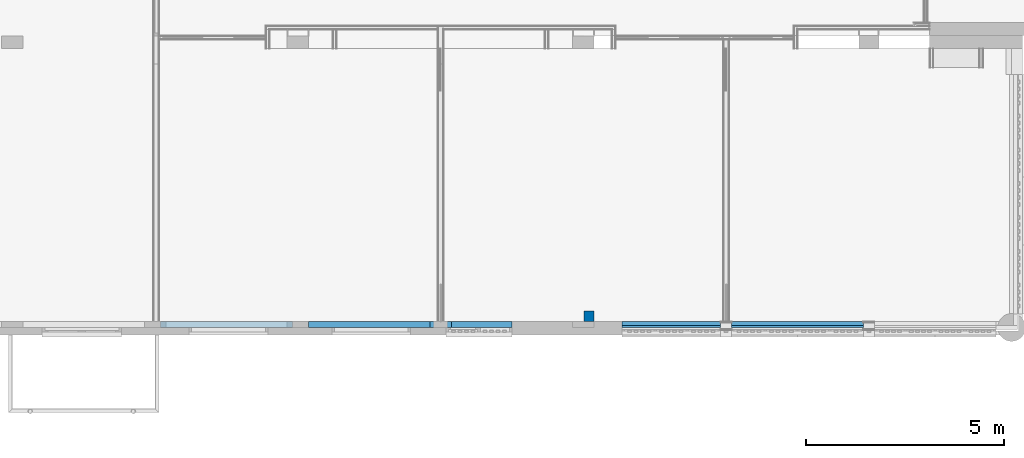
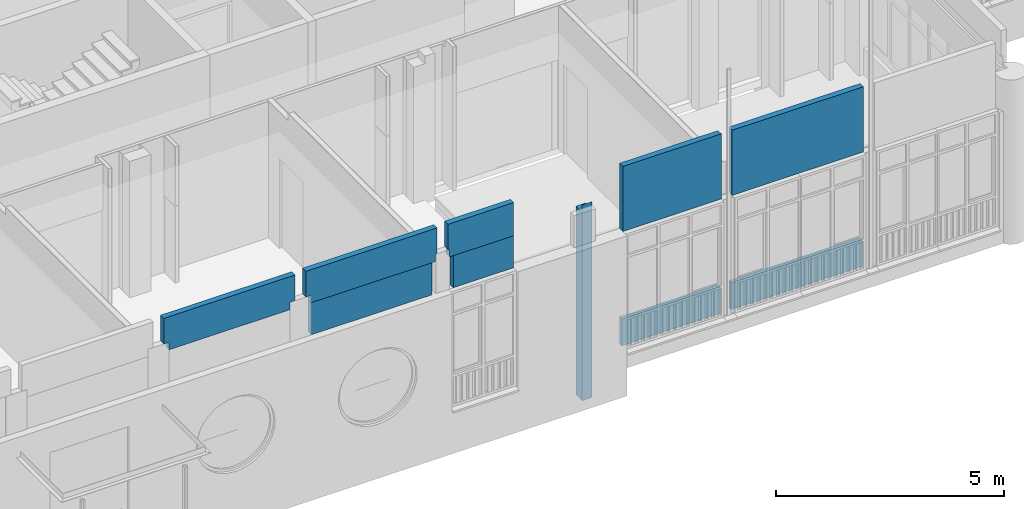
# One storey, part 82 of 135: 10 walls.
"""IFC2X3 building model written with IfcOpenShell, lengths in millimetres."""

from ifc_helpers import new_model, entity, si_unit, converted_unit, derived_unit, money_unit, direction, frame, origin_with_axes, place, context, subcontext, project, spatial, faceted_brep, material, type_object, element, save


model = new_model("IFC2X3")

# Units and contexts
model_context = context("Model", 3, precision=0.01, world=origin_with_axes(), true_north=direction((0.0, 1.0)))
body_context = subcontext(model_context, "Body", "Model", "MODEL_VIEW")
ifc_project = project(units=[si_unit("LENGTHUNIT", "METRE", prefix="MILLI"), si_unit("AREAUNIT", "SQUARE_METRE"), si_unit("VOLUMEUNIT", "CUBIC_METRE"), converted_unit("PLANEANGLEUNIT", "DEGREE", entity("IfcPlaneAngleMeasure", 0.0174532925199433), si_unit("PLANEANGLEUNIT", "RADIAN"), dimensions=[0, 0, 0, 0, 0, 0, 0]), money_unit("EUR"), converted_unit("TIMEUNIT", "Year", entity("IfcTimeMeasure", 31557600.0), si_unit("TIMEUNIT", "SECOND"), dimensions=[0, 0, 1, 0, 0, 0, 0]), si_unit("MASSUNIT", "GRAM", prefix="KILO"), si_unit("THERMODYNAMICTEMPERATUREUNIT", "DEGREE_CELSIUS"), si_unit("LUMINOUSINTENSITYUNIT", "LUMEN"), si_unit("ENERGYUNIT", "JOULE", prefix="MEGA"), derived_unit("THERMALCONDUCTANCEUNIT", [(si_unit("POWERUNIT", "WATT"), 1), (si_unit("LENGTHUNIT", "METRE"), -1), (si_unit("THERMODYNAMICTEMPERATUREUNIT", "KELVIN"), -1)]), derived_unit("SPECIFICHEATCAPACITYUNIT", [(si_unit("ENERGYUNIT", "JOULE"), 1), (si_unit("MASSUNIT", "GRAM", prefix="KILO"), -1), (si_unit("THERMODYNAMICTEMPERATUREUNIT", "KELVIN"), -1)]), derived_unit("MASSDENSITYUNIT", [(si_unit("MASSUNIT", "GRAM", prefix="KILO"), 1), (si_unit("VOLUMEUNIT", "CUBIC_METRE"), -1)])], contexts=[model_context])

# Site, building, storey
site_placement = place(None, origin_with_axes())
site = spatial("IfcSite", under=ifc_project, at=site_placement, Name="Site", CompositionType="ELEMENT")
building_placement = place(site_placement, origin_with_axes())
building = spatial("IfcBuilding", under=site, at=building_placement, Name="Naam gebouw", CompositionType="ELEMENT")
storey_placement = place(building_placement, origin_with_axes())
storey = spatial("IfcBuildingStorey", under=building, at=storey_placement, Name="Begane grond N", CompositionType="ELEMENT", Elevation=0.0)

# Walls
ifc_material_1 = material(Name="ALG - CONSTRUCTIEF")
wall_type_1 = type_object("IfcWallType", Name="ALG - CONSTRUCTIEF 250", PredefinedType="NOTDEFINED")
wall_1_placement = place(storey_placement, frame((21870.0, 3445.668707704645, -1200.0), z_axis=(0.0, 0.0, 1.0), x_axis=(0.0, 1.0, 0.0)))
element("IfcWall", 1, at=wall_1_placement, inside=storey, type_object=wall_type_1, material=ifc_material_1, Name="_Wand-x", context=body_context, shape_type="Brep", body=[
    faceted_brep([(275.0000000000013, 0.0, 0.0), (275.0000000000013, 250.0, 0.0), (275.0000000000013, 250.0, 5050.000000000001), (275.0000000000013, 0.0, 5050.000000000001), (0.0, 250.0, 0.0), (0.0, 0.0, 0.0), (0.0, 250.0, 5250.000000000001), (0.2437173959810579, 250.0000000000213, 5250.000000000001), (0.2437173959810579, 250.0000000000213, 5050.000000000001), (0.2437173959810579, 0.0, 5050.000000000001), (0.2437173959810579, 0.0, 5250.000000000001), (0.0, 0.0, 5250.000000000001)], [[[0, 1, 2, 3]], [[4, 1, 0, 5]], [[6, 7, 8, 2, 1, 4]], [[2, 8, 9, 3]], [[0, 3, 9, 10, 11, 5]], [[4, 5, 11, 6]], [[6, 11, 10, 7]], [[9, 8, 7, 10]]]),
])
ifc_material_2 = material(Name="Steen - Betonblok")
wall_type_2 = type_object("IfcWallType", Name="Steen - Betonblok 100", PredefinedType="NOTDEFINED")
wall_2_placement = place(storey_placement, frame((22568.72689531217, 3345.668707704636, 0.0), z_axis=(0.0, 0.0, 1.0), x_axis=(1.0, 0.0, 0.0)))
element("IfcWall", 2, at=wall_2_placement, inside=storey, type_object=wall_type_2, material=ifc_material_2, Name="_Wand-x", context=body_context, shape_type="Brep", body=[
    faceted_brep([(0.0, 0.0, 720.0000000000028), (2493.722755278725, 0.0, 720.0000000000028), (2493.722755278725, 99.99999999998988, 720.0000000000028), (0.0, 100.0000000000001, 720.0000000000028), (0.0, 0.0, 0.0), (2493.722755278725, 0.0, 0.0), (2493.722755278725, 99.99999999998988, 0.0), (0.0, 100.0000000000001, 0.0)], [[[0, 1, 2, 3]], [[4, 5, 1, 0]], [[2, 1, 5, 6]], [[3, 2, 6, 7]], [[4, 0, 3, 7]], [[7, 6, 5, 4]]]),
])
wall_3_placement = place(storey_placement, frame((25337.4496505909, 3445.668707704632, 0.0), z_axis=(0.0, 0.0, 1.0), x_axis=(1.0, 0.0, 0.0)))
element("IfcWall", 3, at=wall_3_placement, inside=storey, type_object=wall_type_2, material=ifc_material_2, Name="_Wand-x", context=body_context, shape_type="Brep", body=[
    faceted_brep([(0.0, -100.0000000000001, 720.0000000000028), (3325.088158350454, -100.0000000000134, 720.0000000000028), (3325.088158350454, 0.0, 720.0000000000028), (0.0, 0.0, 720.0000000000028), (0.0, -100.0000000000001, 0.0), (3325.088158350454, -100.0000000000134, 0.0), (3325.088158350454, 0.0, 0.0), (0.0, 0.0, 0.0)], [[[0, 1, 2, 3]], [[4, 5, 1, 0]], [[2, 1, 5, 6]], [[3, 2, 6, 7]], [[4, 0, 3, 7]], [[7, 6, 5, 4]]]),
])
wall_type_3 = type_object("IfcWallType", Name="ALG - CONSTRUCTIEF 146", PredefinedType="NOTDEFINED")
wall_4_placement = place(storey_placement, frame((10937.44965059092, 3445.668707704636, 3950.000000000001), z_axis=(0.0, 0.0, 1.0), x_axis=(1.0, 0.0, 0.0)))
element("IfcWall", 4, at=wall_4_placement, inside=storey, type_object=wall_type_3, material=ifc_material_1, Name="_Wand-x", context=body_context, shape_type="Brep", body=[
    faceted_brep([(3324.993059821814, -145.9999999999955, 886.4999999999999), (3324.993059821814, -145.9999999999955, 199.9999999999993), (3324.993059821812, 0.0, 199.9999999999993), (3324.993059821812, 0.0, 886.4999999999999), (3192.550349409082, -145.9999999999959, 0.0), (3192.550349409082, -145.9999999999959, 199.9999999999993), (0.0, -145.9999999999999, 886.4999999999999), (0.0, -145.9999999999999, 199.9999999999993), (132.5503494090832, -145.9999999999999, 199.9999999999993), (132.5503494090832, -145.9999999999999, 0.0), (3192.55034940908, 0.0, 199.9999999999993), (3192.55034940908, 0.0, 0.0), (132.5503494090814, 0.0, 0.0), (132.5503494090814, 0.0, 199.9999999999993), (0.0, 0.0, 199.9999999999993), (0.0, 0.0, 886.4999999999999)], [[[0, 1, 2, 3]], [[4, 5, 1, 0, 6, 7, 8, 9]], [[5, 10, 2, 1]], [[2, 10, 11, 12, 13, 14, 15, 3]], [[15, 6, 0, 3]], [[4, 11, 10, 5]], [[15, 14, 7, 6]], [[7, 14, 13, 8]], [[8, 13, 12, 9]], [[12, 11, 4, 9]]]),
])
wall_5_placement = place(storey_placement, frame((14537.45659076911, 3445.668707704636, 3950.000000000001), z_axis=(0.0, 0.0, 1.0), x_axis=(1.0, 0.0, 0.0)))
element("IfcWall", 5, at=wall_5_placement, inside=storey, type_object=wall_type_3, material=ifc_material_1, Name="_Wand-x", context=body_context, shape_type="Brep", body=[
    faceted_brep([(132.5434092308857, 0.0, 0.0), (132.5434092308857, 0.0, 199.9999999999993), (0.0, 0.0, 199.9999999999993), (0.0, 0.0, 886.4999999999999), (3324.993059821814, 0.0, 886.4999999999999), (3324.993059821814, 0.0, 199.9999999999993), (3287.543409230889, 0.0, 199.9999999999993), (3287.543409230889, 0.0, 0.0), (132.5434092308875, -145.9999999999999, 199.9999999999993), (132.5434092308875, -145.9999999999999, 0.0), (0.0, -145.9999999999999, 199.9999999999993), (0.0, -145.9999999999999, 886.4999999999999), (3324.993059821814, -145.9999999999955, 886.4999999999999), (3324.993059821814, -145.9999999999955, 199.9999999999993), (3287.543409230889, -145.9999999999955, 199.9999999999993), (3287.543409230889, -145.9999999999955, 0.0)], [[[0, 1, 2, 3, 4, 5, 6, 7]], [[8, 1, 0, 9]], [[10, 2, 1, 8]], [[3, 2, 10, 11]], [[3, 11, 12, 4]], [[12, 13, 5, 4]], [[14, 6, 5, 13]], [[15, 7, 6, 14]], [[15, 9, 0, 7]], [[10, 8, 9, 15, 14, 13, 12, 11]]]),
])
wall_6_placement = place(storey_placement, frame((14670.0, 3445.668707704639, 3090.0), z_axis=(0.0, 0.0, 1.0), x_axis=(0.999999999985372, 5.408888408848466e-06, 0.0)))
element("IfcWall", 6, at=wall_6_placement, inside=storey, type_object=wall_type_3, material=ifc_material_1, Name="_Wand-x", context=body_context, shape_type="Brep", body=[
    faceted_brep([(-0.0007896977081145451, -145.9999999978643, 0.0), (0.0, 0.0, 0.0), (3059.999999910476, -0.0165511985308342, 0.0), (3059.999210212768, -146.0165511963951, 0.0), (-0.0007896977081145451, -145.9999999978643, 860.0000000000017), (0.0, 0.0, 860.0000000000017), (3059.999999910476, -0.01655119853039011, 860.0000000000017), (3059.999210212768, -146.0165511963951, 860.0000000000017)], [[[0, 1, 2, 3]], [[4, 5, 1, 0]], [[1, 5, 6, 2]], [[7, 3, 2, 6]], [[4, 0, 3, 7]], [[5, 4, 7, 6]]]),
])
wall_7_placement = place(storey_placement, frame((22568.71995513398, 3445.668707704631, 3090.0), z_axis=(0.0, 0.0, 1.0), x_axis=(1.0, 0.0, 0.0)))
element("IfcWall", 7, at=wall_7_placement, inside=storey, type_object=wall_type_3, material=ifc_material_1, Name="_Wand-x", context=body_context, shape_type="Brep", body=[
    faceted_brep([(0.0, 0.0, 0.0), (2493.516377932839, 0.0, 0.0), (2493.516377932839, -146.0000000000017, 0.0), (0.0, -145.9999999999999, 0.0), (0.0, 0.0, 1746.500000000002), (2493.516377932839, 0.0, 1746.500000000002), (2493.516377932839, -146.0000000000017, 1746.500000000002), (0.0, -145.9999999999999, 1746.500000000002)], [[[0, 1, 2, 3]], [[4, 5, 1, 0]], [[2, 1, 5, 6]], [[3, 2, 6, 7]], [[4, 0, 3, 7]], [[7, 6, 5, 4]]]),
])
wall_8_placement = place(storey_placement, frame((18270.0, 3445.668707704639, 3090.0), z_axis=(0.0, 0.0, 1.0), x_axis=(0.999999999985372, 5.40888840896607e-06, 0.0)))
element("IfcWall", 8, at=wall_8_placement, inside=storey, type_object=wall_type_3, material=ifc_material_1, Name="_Wand-x", context=body_context, shape_type="Brep", body=[
    faceted_brep([(0.0, 0.0, 0.0), (1529.949650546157, -0.008275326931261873, 0.0), (1529.948860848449, -146.0082753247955, 0.0), (-0.0007896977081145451, -145.9999999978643, 0.0), (0.0, 0.0, 860.0000000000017), (1529.949650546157, -0.008275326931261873, 860.0000000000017), (1529.948860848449, -146.0082753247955, 860.0000000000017), (-0.0007896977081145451, -145.9999999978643, 860.0000000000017)], [[[0, 1, 2, 3]], [[4, 5, 1, 0]], [[2, 1, 5, 6]], [[3, 2, 6, 7]], [[4, 0, 3, 7]], [[7, 6, 5, 4]]]),
])
wall_9_placement = place(storey_placement, frame((25337.22939288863, 3445.668707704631, 3090.0), z_axis=(0.0, 0.0, 1.0), x_axis=(1.0, 0.0, 0.0)))
element("IfcWall", 9, at=wall_9_placement, inside=storey, type_object=wall_type_3, material=ifc_material_1, Name="_Wand-x", context=body_context, shape_type="Brep", body=[
    faceted_brep([(0.0, 0.0, 0.0), (3325.308416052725, 0.0, 0.0), (3325.308416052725, -146.0000000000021, 0.0), (0.0, -145.9999999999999, 0.0), (0.0, 0.0, 1746.500000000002), (3325.308416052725, 0.0, 1746.500000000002), (3325.308416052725, -146.0000000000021, 1746.500000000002), (0.0, -145.9999999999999, 1746.500000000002)], [[[0, 1, 2, 3]], [[4, 5, 1, 0]], [[2, 1, 5, 6]], [[3, 2, 6, 7]], [[4, 0, 3, 7]], [[7, 6, 5, 4]]]),
])
wall_10_placement = place(storey_placement, frame((18137.45659076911, 3445.668707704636, 3950.000000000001), z_axis=(0.0, 0.0, 1.0), x_axis=(1.0, 0.0, 0.0)))
element("IfcWall", 10, at=wall_10_placement, inside=storey, type_object=wall_type_3, material=ifc_material_1, Name="_Wand-x", context=body_context, shape_type="Brep", body=[
    faceted_brep([(37.54340923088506, 0.0, 0.0), (37.54340923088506, 0.0, 199.9999999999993), (0.0, 0.0, 199.9999999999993), (0.0, 0.0, 886.4999999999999), (1662.493059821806, 0.0, 886.4999999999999), (1662.493059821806, 0.0, 0.0), (37.54340923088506, -145.9999999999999, 199.9999999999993), (37.54340923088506, -145.9999999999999, 0.0), (0.0, -145.9999999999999, 199.9999999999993), (0.0, -145.9999999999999, 886.4999999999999), (1662.493059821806, -145.9999999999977, 886.4999999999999), (1662.493059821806, -145.9999999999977, 0.0)], [[[0, 1, 2, 3, 4, 5]], [[6, 1, 0, 7]], [[8, 2, 1, 6]], [[3, 2, 8, 9]], [[3, 9, 10, 4]], [[10, 11, 5, 4]], [[11, 7, 0, 5]], [[8, 6, 7, 11, 10, 9]]]),
])

save(model, "model.ifc")
